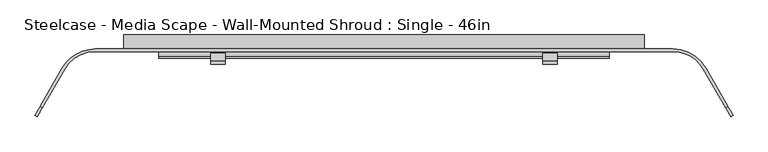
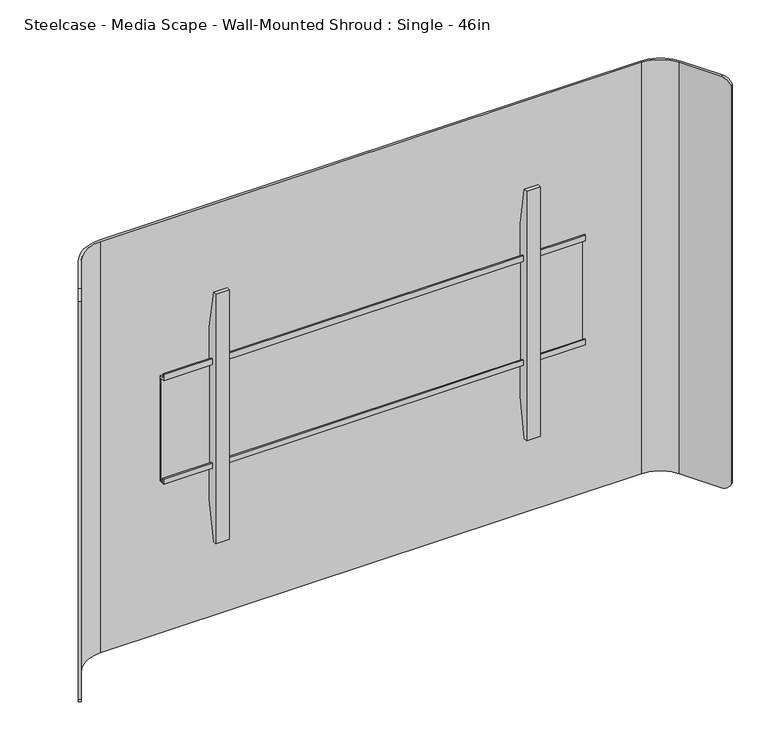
"""IFC4 building model written with IfcOpenShell, lengths in millimetres: furniture geometry, Steelcase - Media Scape - Wall-Mounted Shroud : Single - 46in."""

from ifc_helpers import new_model, si_unit, frame, origin, place, context, project, spatial, polyline, circle_curve, outline, extrude, source, transform, mapped, element, save
from ifc_brep_helpers import plane_surface, cylinder_surface, revolved_surface, advanced_brep


def steelcase_media_scape_wall_mounted_shroud_single_46in_c8ec8d64(model_context):
    return source(origin(), model_context, "Body", "SolidModel", [
        extrude(outline(polyline([(-42.4942785, 1358.3004726), (-42.4942785, 1370.3145649), (-39.8272175, 1370.3145649), (-39.8272175, 1360.967461), (-29.9720009, 1360.967461), (-29.9720009, 1146.6422438), (-42.3164551, 1146.6422438), (-42.3164551, 1157.5642515), (-39.649394, 1157.5642515), (-39.649394, 1149.307052), (-32.6531824, 1149.307052), (-32.6531824, 1358.3004726), (-42.4942785, 1358.3004726)])), frame((-406.4, 0.0, 0.0), z_axis=(1.0, 0.0, 0.0), x_axis=(0.0, 1.0, 0.0)), (0.0, 0.0, 1.0), 812.8),
        extrude(outline(polyline([(-32.6531824, 1429.2471148), (-32.6531824, 1077.4325607), (-46.5049349, 999.8046949), (-53.3399828, 999.8046949), (-53.3399828, 1507.8047192), (-46.5050076, 1507.8047192), (-32.6531824, 1429.2471148)])), frame((286.6392868, 0.0, 0.0), z_axis=(1.0, 0.0, 0.0), x_axis=(0.0, 1.0, 0.0)), (0.0, 0.0, 1.0), 26.1592872),
        extrude(outline(polyline([(-32.6531824, 1429.2471148), (-32.6531824, 1077.4325607), (-46.5049349, 999.8046949), (-53.3399828, 999.8046949), (-53.3399828, 1507.8047192), (-46.5050076, 1507.8047192), (-32.6531824, 1429.2471148)])), frame((-312.798574, 0.0, 0.0), z_axis=(1.0, 0.0, 0.0), x_axis=(0.0, 1.0, 0.0)), (0.0, 0.0, 1.0), 26.1592872),
        advanced_brep(
        [(-576.7086135, -61.722, 1674.114), (-521.716002, -29.9720009, 1674.114), (521.716, -29.9720009, 1674.114), (576.7086135, -61.722, 1674.114), (616.829586, -131.2135628, 1674.114), (620.7890541, -128.9275628, 1674.114), (580.6680817, -59.436, 1674.114), (521.716002, -25.4, 1674.114), (-521.716, -25.4, 1674.114), (-580.6680817, -59.436, 1674.114), (-620.7921659, -128.9329524, 1674.114), (-616.8326977, -131.2189524, 1674.114), (-580.6680817, -59.436, 835.914), (-521.716002, -25.4, 835.914), (521.716, -25.4, 835.914), (580.6680817, -59.436, 835.914), (620.8406629, -129.0169518, 835.914), (616.8811948, -131.3029518, 835.914), (576.7086135, -61.722, 835.914), (521.716002, -29.9720009, 835.914), (-521.716, -29.9720009, 835.914), (-576.7086135, -61.722, 835.914), (-616.8954014, -131.3275584, 835.914), (-620.8548695, -129.0415584, 835.914), (-630.3590632, -145.5033047, 849.5242766), (-630.3590632, -145.5033047, 1660.1227735), (-626.3995951, -147.7893047, 1660.1227735), (-626.3995951, -147.7893047, 849.5242766), (626.3770866, -147.7503189, 849.4756893), (626.3770866, -147.7503189, 1660.2433849), (630.3365547, -145.4643189, 1660.2433849), (630.3365547, -145.4643189, 849.4756893)],
        [
            (0, 1, circle_curve(frame((-521.716002, -93.4719991, 1674.114), z_axis=(0.0, 0.0, -1.0), x_axis=(0.0, 1.0, 0.0)), 63.4999981)),
            (1, 2),
            (2, 3, circle_curve(frame((521.716002, -93.4719991, 1674.114), z_axis=(0.0, 0.0, -1.0), x_axis=(0.0, 1.0, 0.0)), 63.4999981)),
            (3, 4),
            (4, 5),
            (5, 6),
            (6, 7, circle_curve(frame((521.7160004, -93.472, 1674.114), z_axis=(0.0, 0.0, 1.0), x_axis=(0.0, 1.0, 0.0)), 68.072)),
            (7, 8),
            (8, 9, circle_curve(frame((-521.7160004, -93.472, 1674.114), z_axis=(0.0, 0.0, 1.0), x_axis=(0.0, 1.0, 0.0)), 68.072)),
            (9, 10),
            (10, 11),
            (11, 0),
            (12, 13, circle_curve(frame((-521.7160004, -93.472, 835.914), z_axis=(0.0, 0.0, -1.0), x_axis=(0.0, 1.0, 0.0)), 68.072)),
            (13, 14),
            (14, 15, circle_curve(frame((521.7160004, -93.472, 835.914), z_axis=(0.0, 0.0, -1.0), x_axis=(0.0, 1.0, 0.0)), 68.072)),
            (15, 16),
            (16, 17),
            (17, 18),
            (18, 19, circle_curve(frame((521.716002, -93.4719991, 835.914), z_axis=(0.0, 0.0, 1.0), x_axis=(0.0, 1.0, 0.0)), 63.4999981)),
            (19, 20),
            (20, 21, circle_curve(frame((-521.716002, -93.4719991, 835.914), z_axis=(0.0, 0.0, 1.0), x_axis=(0.0, 1.0, 0.0)), 63.4999981)),
            (21, 22),
            (22, 23),
            (23, 12),
            (0, 21),
            (20, 1),
            (8, 13),
            (12, 9),
            (23, 24, circle_curve(frame((-620.8548695, -129.0415584, 855.9928872), z_axis=(-0.8660254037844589, 0.4999999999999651, 0.0), x_axis=(-0.4999999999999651, -0.8660254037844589, 0.0)), 20.0788872)),
            (24, 25),
            (25, 10, circle_curve(frame((-620.7921659, -128.9329524, 1654.0351128), z_axis=(-0.8660254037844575, 0.4999999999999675, 0.0), x_axis=(-0.4999999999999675, -0.8660254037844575, 0.0)), 20.0788872)),
            (26, 25),
            (24, 27),
            (27, 26),
            (11, 26, circle_curve(frame((-616.8326977, -131.2189524, 1654.0351128), z_axis=(0.8660254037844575, -0.4999999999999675, 0.0), x_axis=(-0.4999999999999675, -0.8660254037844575, 0.0)), 20.0788872)),
            (27, 22, circle_curve(frame((-616.8954014, -131.3275584, 855.9928872), z_axis=(0.8660254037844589, -0.4999999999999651, 0.0), x_axis=(-0.4999999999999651, -0.8660254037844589, 0.0)), 20.0788872)),
            (7, 14),
            (19, 2),
            (3, 18),
            (17, 28, circle_curve(frame((616.8811948, -131.3029518, 855.9928872), z_axis=(-0.8660254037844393, -0.49999999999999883, 0.0), x_axis=(0.49999999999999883, -0.8660254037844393, 0.0)), 20.0788872)),
            (28, 29),
            (29, 4, circle_curve(frame((616.829586, -131.2135628, 1654.0351128), z_axis=(-0.8660254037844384, -0.5000000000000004, 0.0), x_axis=(0.5000000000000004, -0.8660254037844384, 0.0)), 20.0788872)),
            (30, 29),
            (28, 31),
            (31, 30),
            (15, 6),
            (5, 30, circle_curve(frame((620.7890541, -128.9275628, 1654.0351128), z_axis=(0.8660254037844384, 0.5000000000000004, 0.0), x_axis=(0.5000000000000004, -0.8660254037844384, 0.0)), 20.0788872)),
            (31, 16, circle_curve(frame((620.8406629, -129.0169518, 855.9928872), z_axis=(0.8660254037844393, 0.49999999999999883, 0.0), x_axis=(0.49999999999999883, -0.8660254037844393, 0.0)), 20.0788872)),
        ],
        [
            plane_surface(frame((-521.716002, -29.9720009, 1674.114), z_axis=(0.0, 0.0, 1.0), x_axis=(1.0, 0.0, 0.0))),
            plane_surface(frame((-521.716002, -29.9720009, 835.914), z_axis=(0.0, 0.0, -1.0), x_axis=(-1.0, 0.0, 0.0))),
            revolved_surface(polyline([(-521.716002, -29.972001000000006, 835.914), (-521.716002, -29.972001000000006, 1674.114)]), (-521.716002, -93.4719991, 835.914), (0.0, 0.0, -1.0)),
            cylinder_surface(frame((-521.7160004, -93.472, 835.914), z_axis=(0.0, 0.0, 1.0), x_axis=(0.0, 1.0, 0.0)), 68.072),
            plane_surface(frame((-580.6680817, -59.436, 1674.114), z_axis=(-0.8660254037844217, 0.5000000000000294, 0.0), x_axis=(0.0, 0.0, -1.0))),
            plane_surface(frame((-630.3590632, -145.5033047, 1674.114), z_axis=(-0.5000000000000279, -0.8660254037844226, 0.0), x_axis=(0.0, 0.0, -1.0))),
            plane_surface(frame((-626.3995951, -147.7893047, 1674.114), z_axis=(0.8660254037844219, -0.500000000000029, 0.0), x_axis=(0.0, 0.0, -1.0))),
            plane_surface(frame((521.716, -25.4, 1674.114), z_axis=(0.0, 1.0, 0.0), x_axis=(0.0, 0.0, -1.0))),
            plane_surface(frame((-521.716, -29.9720009, 1674.114), z_axis=(0.0, -1.0, 0.0), x_axis=(0.0, 0.0, -1.0))),
            plane_surface(frame((576.7086135, -61.722, 1674.114), z_axis=(-0.8660254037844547, -0.4999999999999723, 0.0), x_axis=(0.0, 0.0, -1.0))),
            plane_surface(frame((626.3770866, -147.7503189, 1674.114), z_axis=(0.4999999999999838, -0.866025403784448, 0.0), x_axis=(0.0, 0.0, -1.0))),
            plane_surface(frame((630.3365547, -145.4643189, 1674.114), z_axis=(0.8660254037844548, 0.49999999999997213, 0.0), x_axis=(0.0, 0.0, -1.0))),
            cylinder_surface(frame((521.7160004, -93.472, 835.914), z_axis=(0.0, 0.0, 1.0), x_axis=(0.0, 1.0, 0.0)), 68.072),
            revolved_surface(polyline([(521.716002, -29.972001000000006, 835.914), (521.716002, -29.972001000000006, 1674.114)]), (521.716002, -93.4719991, 835.914), (0.0, 0.0, -1.0)),
            cylinder_surface(frame((-616.8326977, -131.2189524, 1654.0351128), z_axis=(0.8660254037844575, -0.4999999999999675, 0.0), x_axis=(-0.4999999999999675, -0.8660254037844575, 0.0)), 20.0788872),
            cylinder_surface(frame((-616.8954014, -131.3275584, 855.9928872), z_axis=(0.8660254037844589, -0.4999999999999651, 0.0), x_axis=(-0.4999999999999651, -0.8660254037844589, 0.0)), 20.0788872),
            cylinder_surface(frame((631.9364297, -122.4916225, 1654.0351128), z_axis=(0.8660254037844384, 0.5000000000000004, 0.0), x_axis=(0.5000000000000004, -0.8660254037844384, 0.0)), 20.0788872),
            cylinder_surface(frame((629.1289695, -124.2316958, 855.9928872), z_axis=(0.8660254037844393, 0.49999999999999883, 0.0), x_axis=(0.49999999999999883, -0.8660254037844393, 0.0)), 20.0788872),
        ],
        [
            (0, [[1, 2, 3, 4, 5, 6, 7, 8, 9, 10, 11, 12]]),
            (1, [[13, 14, 15, 16, 17, 18, 19, 20, 21, 22, 23, 24]]),
            (2, [[-1, 25, -21, 26]]),
            (3, [[-9, 27, -13, 28]]),
            (4, [[-28, -24, 29, 30, 31, -10]]),
            (5, [[32, -30, 33, 34]]),
            (6, [[-25, -12, 35, -34, 36, -22]]),
            (7, [[-8, 37, -14, -27]]),
            (8, [[-2, -26, -20, 38]]),
            (9, [[39, -18, 40, 41, 42, -4]]),
            (10, [[43, -41, 44, 45]]),
            (11, [[46, -6, 47, -45, 48, -16]]),
            (12, [[-7, -46, -15, -37]]),
            (13, [[-3, -38, -19, -39]]),
            (14, [[-11, -31, -32, -35]]),
            (15, [[-23, -36, -33, -29]]),
            (16, [[-5, -42, -43, -47]]),
            (17, [[-17, -48, -44, -40]]),
        ],
    ),
        extrude(outline(polyline([(912.1648167, 406.3999879), (912.1648167, 469.9), (1597.914, 469.9), (1597.914, -469.9), (912.1648167, -469.9), (912.1648167, -407.3933465), (1534.4139516, -407.3933465), (1534.4139516, 406.3999879), (912.1648167, 406.3999879)])), frame((0.0, -25.4, 0.0), z_axis=(0.0, 1.0, 0.0), x_axis=(0.0, 0.0, 1.0)), (0.0, 0.0, 1.0), 25.4),
    ])


if __name__ == "__main__":
    model = new_model("IFC4")
    model_context = context("Model", 3, world=origin())
    ifc_project = project(units=[si_unit("LENGTHUNIT", "METRE", prefix="MILLI")], contexts=[model_context])
    site = spatial("IfcSite", under=ifc_project)
    building = spatial("IfcBuilding", under=site)
    placement = place(None, origin())
    steelcase_media_scape_wall_mounted_shroud_single_46in_shape = steelcase_media_scape_wall_mounted_shroud_single_46in_c8ec8d64(model_context)
    element("IfcFurniture", 1, ObjectType="Steelcase - Media Scape - Wall-Mounted Shroud : Single - 46in", at=placement, inside=building, context=model_context, shape_type="MappedRepresentation", body=[
        mapped(steelcase_media_scape_wall_mounted_shroud_single_46in_shape, transform((0.0, 0.0, 0.0), x_axis=(1.0, 0.0, 0.0), y_axis=(0.0, 1.0, 0.0), z_axis=(0.0, 0.0, 1.0))),
    ])
    save(model, "model.ifc")
